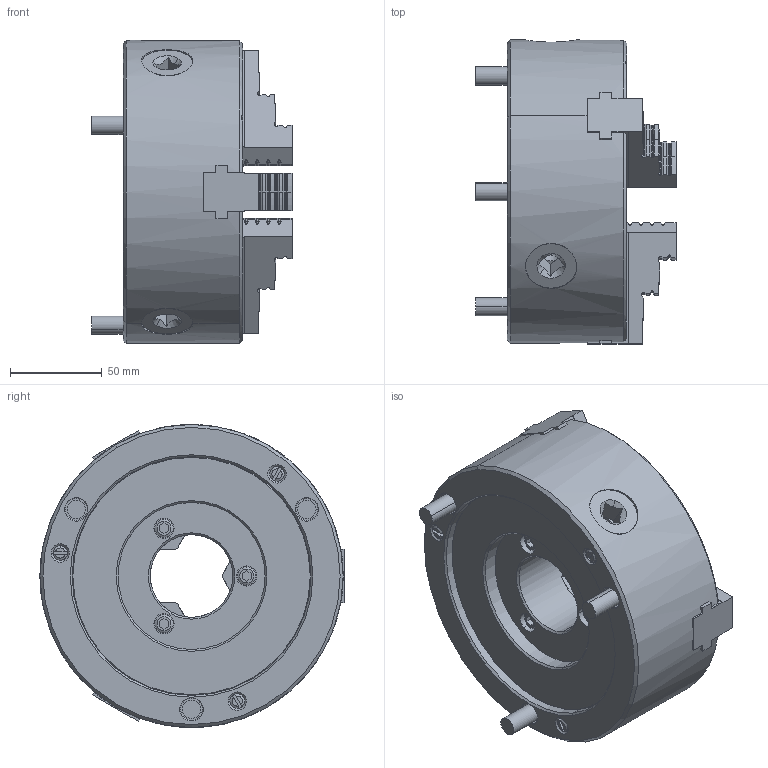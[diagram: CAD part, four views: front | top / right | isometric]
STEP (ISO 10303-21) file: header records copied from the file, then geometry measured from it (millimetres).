
FILE_DESCRIPTION (( 'STEP AP214' ), '1' );
FILE_NAME ('61S351384-2_JN06-101 OUTSIDE VIEW.STEP', '2025-02-25T05:02:16', ( '' ), ( '' ), 'SwSTEP 2.0', 'SolidWorks 2022', '' );
FILE_SCHEMA (( 'AUTOMOTIVE_DESIGN' ));
Products named in the file (1): 61S351384-2_JN06-101 OUTSIDE VIEW
Bounding box: 109 x 165.5 x 165 mm (x, y, z)
Volume: 1248484.7 mm3; surface area: 115606.8 mm2
Topology: 1 solids, 1 shells, 1961 faces, 4912 edges, 3028 vertices
Faces by surface type: plane 599, cylinder 534, bspline 532, cone 165, torus 127, sphere 4
Entity records: 80559 total; most frequent: CARTESIAN_POINT 39528, ORIENTED_EDGE 9802, DIRECTION 6601, EDGE_CURVE 4901, VERTEX_POINT 3025, VECTOR 2231, LINE 2231, AXIS2_PLACEMENT_3D 2185
